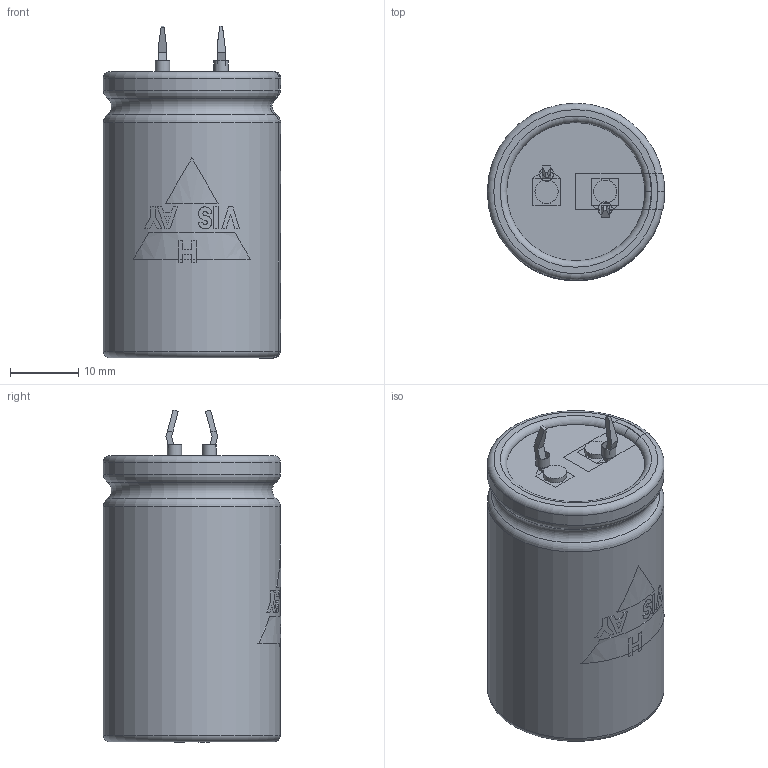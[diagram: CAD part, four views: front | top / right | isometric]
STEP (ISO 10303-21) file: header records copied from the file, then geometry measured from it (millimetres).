
FILE_DESCRIPTION(('FreeCAD Model'),'2;1');
FILE_NAME( 'C:/Users/Gebruiker/Documents/FreeCAD/SnapIn_25x40_2pin_5.8.step', '2020-11-12T20:07:39',('Author'),(''), 'Open CASCADE STEP processor 6.8','FreeCAD','Unknown');
FILE_SCHEMA(('AUTOMOTIVE_DESIGN_CC2 { 1 2 10303 214 -1 1 5 4 }'));
Length unit declared in the file: millimetre
Products named in the file (9): ASSEMBLY; TerminalMin; TerminalPlus; PCBHoles; Disc; BottomInsulation; Can3D; InkMinusBar; InkLogo
Assembly tree (8 placements, depth 2):
  ASSEMBLY
    TerminalMin
    TerminalPlus
    PCBHoles
    Disc
    BottomInsulation
    Can3D
    InkMinusBar
    InkLogo
Bounding box: 26.05 x 26.05 x 48.75 mm (x, y, z)
Volume: 24994.9 mm3; surface area: 10325.8 mm2
Topology: 15 solids, 15 shells, 199 faces, 500 edges, 328 vertices
Faces by surface type: plane 149, cylinder 32, torus 18
Full cylindrical faces by diameter (mm): 2 x2, 2.1 x2, 3.4 x2, 20.3 x1, 20.8 x2, 26 x2
Entity records: 20974 total; most frequent: CARTESIAN_POINT 9834, DIRECTION 1737, ORIENTED_EDGE 1000, PCURVE 1000, DEFINITIONAL_REPRESENTATION 1000, LINE 973, VECTOR 973, EDGE_CURVE 500
